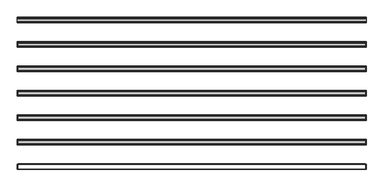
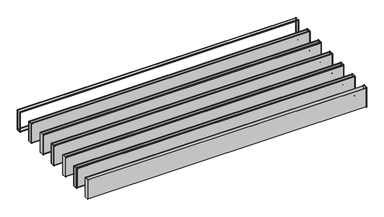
"""IFC4 building model written with IfcOpenShell, lengths in millimetres: proxy geometry, durlum_POLYLAM_KS : durlum_POLYLAM-KS/-S 63."""

from ifc_helpers import new_model, si_unit, frame, origin, place, context, project, spatial, polyline, circle_curve, outline, extrude, source, transform, mapped, element, save
from ifc_brep_helpers import plane_surface, cylinder_surface, advanced_brep


def generic_models_10a35686(model_context):
    return source(origin(), model_context, "Body", "SolidModel", [
        advanced_brep(
        [(1995.0, 309.5, 1990.9), (1995.0, 299.5, 1990.9), (1995.0, 299.5, 1990.0604454), (1995.0, 310.5, 1990.0604454), (1995.0, 310.5, 1691.9), (1995.0, 249.5, 1691.9), (1995.0, 249.5, 1989.8155735), (1995.0, 260.5, 1989.8155735), (1995.0, 260.5, 1990.9), (1995.0, 250.5, 1990.9), (1995.0, 248.5, 1988.9), (1995.0, 248.5, 1692.9), (1995.0, 250.5, 1690.9), (1995.0, 309.5, 1690.9), (1995.0, 311.5, 1692.9), (1995.0, 311.5, 1988.9), (-1995.0, 309.5, 1990.9), (-1995.0, 311.5, 1988.9), (-1995.0, 311.5, 1692.9), (-1995.0, 309.5, 1690.9), (-1995.0, 250.5, 1690.9), (-1995.0, 248.5, 1692.9), (-1995.0, 248.5, 1988.9), (-1995.0, 250.5, 1990.9), (-1995.0, 260.5, 1990.9), (-1995.0, 260.5, 1989.8155735), (-1995.0, 249.5, 1989.8155735), (-1995.0, 249.5, 1691.9), (-1995.0, 310.5, 1691.9), (-1995.0, 310.5, 1990.0604454), (-1995.0, 299.5, 1990.0604454), (-1995.0, 299.5, 1990.9), (-1986.5, 310.5, 1982.4), (1986.5, 310.5, 1982.4), (1986.5, 310.5, 1699.4), (-1986.5, 310.5, 1699.4), (1986.5, 249.5, 1982.4), (-1986.5, 249.5, 1982.4), (-1986.5, 249.5, 1699.4), (1986.5, 249.5, 1699.4), (-1986.5, 248.5, 1982.4), (1986.5, 248.5, 1982.4), (1986.5, 248.5, 1699.4), (-1986.5, 248.5, 1699.4), (1986.5, 311.5, 1982.4), (-1986.5, 311.5, 1982.4), (-1986.5, 311.5, 1699.4), (1986.5, 311.5, 1699.4)],
        [
            (0, 1),
            (1, 2),
            (2, 3),
            (3, 4),
            (4, 5),
            (5, 6),
            (6, 7),
            (7, 8),
            (8, 9),
            (9, 10, circle_curve(frame((1995.0, 250.5, 1988.9), z_axis=(1.0, 0.0, 0.0), x_axis=(0.0, 1.0, 0.0)), 2.0)),
            (10, 11),
            (11, 12, circle_curve(frame((1995.0, 250.5, 1692.9), z_axis=(1.0, 0.0, 0.0), x_axis=(0.0, 1.0, 0.0)), 2.0)),
            (12, 13),
            (13, 14, circle_curve(frame((1995.0, 309.5, 1692.9), z_axis=(1.0, 0.0, 0.0), x_axis=(0.0, 1.0, 0.0)), 2.0)),
            (14, 15),
            (15, 0, circle_curve(frame((1995.0, 309.5, 1988.9), z_axis=(1.0, 0.0, 0.0), x_axis=(0.0, 1.0, 0.0)), 2.0)),
            (16, 17, circle_curve(frame((-1995.0, 309.5, 1988.9), z_axis=(-1.0, 0.0, 0.0), x_axis=(0.0, 1.0, 0.0)), 2.0)),
            (17, 18),
            (18, 19, circle_curve(frame((-1995.0, 309.5, 1692.9), z_axis=(-1.0, 0.0, 0.0), x_axis=(0.0, 1.0, 0.0)), 2.0)),
            (19, 20),
            (20, 21, circle_curve(frame((-1995.0, 250.5, 1692.9), z_axis=(-1.0, 0.0, 0.0), x_axis=(0.0, 1.0, 0.0)), 2.0)),
            (21, 22),
            (22, 23, circle_curve(frame((-1995.0, 250.5, 1988.9), z_axis=(-1.0, 0.0, 0.0), x_axis=(0.0, 1.0, 0.0)), 2.0)),
            (23, 24),
            (24, 25),
            (25, 26),
            (26, 27),
            (27, 28),
            (28, 29),
            (29, 30),
            (30, 31),
            (31, 16),
            (0, 16),
            (31, 1),
            (30, 2),
            (29, 3),
            (28, 4),
            (32, 33),
            (33, 34),
            (34, 35),
            (35, 32),
            (27, 5),
            (26, 6),
            (36, 37),
            (37, 38),
            (38, 39),
            (39, 36),
            (25, 7),
            (24, 8),
            (23, 9),
            (10, 22),
            (21, 11),
            (40, 41),
            (41, 42),
            (42, 43),
            (43, 40),
            (12, 20),
            (19, 13),
            (14, 18),
            (17, 15),
            (44, 45),
            (45, 46),
            (46, 47),
            (47, 44),
            (44, 33),
            (32, 45),
            (36, 41),
            (40, 37),
            (35, 46),
            (43, 38),
            (34, 47),
            (42, 39),
        ],
        [
            plane_surface(frame((1995.0, 299.5, 1990.9), z_axis=(1.0, 0.0, 0.0), x_axis=(0.0, -1.0, 0.0))),
            plane_surface(frame((-1995.0, 299.5, 1990.9), z_axis=(-1.0, 0.0, 0.0), x_axis=(0.0, 1.0, 0.0))),
            plane_surface(frame((1995.0, 309.5, 1990.9), z_axis=(0.0, 0.0, 1.0), x_axis=(-1.0, 0.0, 0.0))),
            plane_surface(frame((1995.0, 299.5, 1990.9), z_axis=(0.0, -1.0, 0.0), x_axis=(-1.0, 0.0, 0.0))),
            plane_surface(frame((1995.0, 299.5, 1990.0604454), z_axis=(0.0, 0.0, -1.0), x_axis=(-1.0, 0.0, 0.0))),
            plane_surface(frame((1995.0, 310.5, 1990.0604454), z_axis=(0.0, -1.0, 0.0), x_axis=(-1.0, 0.0, 0.0))),
            plane_surface(frame((1995.0, 310.5, 1691.9), z_axis=(0.0, 0.0, 1.0), x_axis=(-1.0, 0.0, 0.0))),
            plane_surface(frame((1995.0, 249.5, 1691.9), z_axis=(0.0, 1.0, 0.0), x_axis=(-1.0, 0.0, 0.0))),
            plane_surface(frame((1995.0, 249.5, 1989.8155735), z_axis=(0.0, 0.0, -1.0), x_axis=(-1.0, 0.0, 0.0))),
            plane_surface(frame((1995.0, 260.5, 1989.8155735), z_axis=(0.0, 1.0, 0.0), x_axis=(-1.0, 0.0, 0.0))),
            plane_surface(frame((1995.0, 260.5, 1990.9), z_axis=(0.0, 0.0, 1.0), x_axis=(-1.0, 0.0, 0.0))),
            plane_surface(frame((1995.0, 248.5, 1988.9), z_axis=(0.0, -1.0, 0.0), x_axis=(-1.0, 0.0, 0.0))),
            plane_surface(frame((1995.0, 250.5, 1690.9), z_axis=(0.0, 0.0, -1.0), x_axis=(-1.0, 0.0, 0.0))),
            plane_surface(frame((1995.0, 311.5, 1692.9), z_axis=(0.0, 1.0, 0.0), x_axis=(-1.0, 0.0, 0.0))),
            cylinder_surface(frame((-1995.0, 250.5, 1988.9), z_axis=(1.0, 0.0, 0.0), x_axis=(0.0, 1.0, 0.0)), 2.0),
            cylinder_surface(frame((-1995.0, 250.5, 1692.9), z_axis=(1.0, 0.0, 0.0), x_axis=(0.0, 1.0, 0.0)), 2.0),
            cylinder_surface(frame((-1995.0, 309.5, 1692.9), z_axis=(1.0, 0.0, 0.0), x_axis=(0.0, 1.0, 0.0)), 2.0),
            cylinder_surface(frame((-1995.0, 309.5, 1988.9), z_axis=(1.0, 0.0, 0.0), x_axis=(0.0, 1.0, 0.0)), 2.0),
            plane_surface(frame((1986.5, 248.5, 1982.4), z_axis=(0.0, 0.0, -1.0), x_axis=(0.0, 1.0, 0.0))),
            plane_surface(frame((-1986.5, 248.5, 1982.4), z_axis=(1.0, 0.0, 0.0), x_axis=(0.0, 1.0, 0.0))),
            plane_surface(frame((-1986.5, 248.5, 1699.4), z_axis=(0.0, 0.0, 1.0), x_axis=(0.0, 1.0, 0.0))),
            plane_surface(frame((1986.5, 248.5, 1699.4), z_axis=(-1.0, 0.0, 0.0), x_axis=(0.0, 1.0, 0.0))),
        ],
        [
            (0, [[1, 2, 3, 4, 5, 6, 7, 8, 9, 10, 11, 12, 13, 14, 15, 16]]),
            (1, [[17, 18, 19, 20, 21, 22, 23, 24, 25, 26, 27, 28, 29, 30, 31, 32]]),
            (2, [[-1, 33, -32, 34]]),
            (3, [[-2, -34, -31, 35]]),
            (4, [[-3, -35, -30, 36]]),
            (5, [[-4, -36, -29, 37], [38, 39, 40, 41]]),
            (6, [[-5, -37, -28, 42]]),
            (7, [[-6, -42, -27, 43], [44, 45, 46, 47]]),
            (8, [[-7, -43, -26, 48]]),
            (9, [[-8, -48, -25, 49]]),
            (10, [[-9, -49, -24, 50]]),
            (11, [[-11, 51, -22, 52], [53, 54, 55, 56]]),
            (12, [[-13, 57, -20, 58]]),
            (13, [[-15, 59, -18, 60], [61, 62, 63, 64]]),
            (14, [[-10, -50, -23, -51]]),
            (15, [[-12, -52, -21, -57]]),
            (16, [[-14, -58, -19, -59]]),
            (17, [[-16, -60, -17, -33]]),
            (18, [[65, -38, 66, -61]]),
            (18, [[67, -53, 68, -44]]),
            (19, [[-66, -41, 69, -62]]),
            (19, [[-68, -56, 70, -45]]),
            (20, [[-69, -40, 71, -63]]),
            (20, [[-70, -55, 72, -46]]),
            (21, [[-65, -64, -71, -39]]),
            (21, [[-67, -47, -72, -54]]),
        ],
    ),
        extrude(outline(polyline([(1986.5, 30.5), (-1986.5, 30.5), (-1986.5, 31.5), (1986.5, 31.5), (1986.5, 30.5)])), frame((0.0, 0.0, 1699.4), z_axis=(0.0, 0.0, 1.0), x_axis=(1.0, 0.0, 0.0)), (0.0, 0.0, 1.0), 283.0),
        extrude(outline(polyline([(1986.5, -31.5), (-1986.5, -31.5), (-1986.5, -30.5), (1986.5, -30.5), (1986.5, -31.5)])), frame((0.0, 0.0, 1699.4), z_axis=(0.0, 0.0, 1.0), x_axis=(1.0, 0.0, 0.0)), (0.0, 0.0, 1.0), 283.0),
        extrude(outline(polyline([(1993.0, 30.5), (1995.0, 30.5), (1995.0, -30.5), (1993.0, -30.5), (1993.0, 30.5)])), frame((0.0, 0.0, 1691.9), z_axis=(0.0, 0.0, 1.0), x_axis=(1.0, 0.0, 0.0)), (0.0, 0.0, 1.0), 298.1604454),
        extrude(outline(polyline([(-1995.0, 30.5), (-1993.0, 30.5), (-1993.0, -30.5), (-1995.0, -30.5), (-1995.0, 30.5)])), frame((0.0, 0.0, 1691.9), z_axis=(0.0, 0.0, 1.0), x_axis=(1.0, 0.0, 0.0)), (0.0, 0.0, 1.0), 298.1604454),
        advanced_brep(
        [(1995.0, 29.5, 1990.9), (1995.0, 19.5, 1990.9), (1995.0, 19.5, 1990.0604454), (1995.0, 30.5, 1990.0604454), (1995.0, 30.5, 1691.9), (1995.0, -30.5, 1691.9), (1995.0, -30.5, 1989.8155735), (1995.0, -19.5, 1989.8155735), (1995.0, -19.5, 1990.9), (1995.0, -29.5, 1990.9), (1995.0, -31.5, 1988.9), (1995.0, -31.5, 1692.9), (1995.0, -29.5, 1690.9), (1995.0, 29.5, 1690.9), (1995.0, 31.5, 1692.9), (1995.0, 31.5, 1988.9), (-1995.0, 29.5, 1990.9), (-1995.0, 31.5, 1988.9), (-1995.0, 31.5, 1692.9), (-1995.0, 29.5, 1690.9), (-1995.0, -29.5, 1690.9), (-1995.0, -31.5, 1692.9), (-1995.0, -31.5, 1988.9), (-1995.0, -29.5, 1990.9), (-1995.0, -19.5, 1990.9), (-1995.0, -19.5, 1989.8155735), (-1995.0, -30.5, 1989.8155735), (-1995.0, -30.5, 1691.9), (-1995.0, 30.5, 1691.9), (-1995.0, 30.5, 1990.0604454), (-1995.0, 19.5, 1990.0604454), (-1995.0, 19.5, 1990.9), (-1986.5, 30.5, 1982.4), (1986.5, 30.5, 1982.4), (1986.5, 30.5, 1699.4), (-1986.5, 30.5, 1699.4), (1986.5, -30.5, 1982.4), (-1986.5, -30.5, 1982.4), (-1986.5, -30.5, 1699.4), (1986.5, -30.5, 1699.4), (-1986.5, -31.5, 1982.4), (1986.5, -31.5, 1982.4), (1986.5, -31.5, 1699.4), (-1986.5, -31.5, 1699.4), (1986.5, 31.5, 1982.4), (-1986.5, 31.5, 1982.4), (-1986.5, 31.5, 1699.4), (1986.5, 31.5, 1699.4)],
        [
            (0, 1),
            (1, 2),
            (2, 3),
            (3, 4),
            (4, 5),
            (5, 6),
            (6, 7),
            (7, 8),
            (8, 9),
            (9, 10, circle_curve(frame((1995.0, -29.5, 1988.9), z_axis=(1.0, 0.0, 0.0), x_axis=(0.0, 1.0, 0.0)), 2.0)),
            (10, 11),
            (11, 12, circle_curve(frame((1995.0, -29.5, 1692.9), z_axis=(1.0, 0.0, 0.0), x_axis=(0.0, 1.0, 0.0)), 2.0)),
            (12, 13),
            (13, 14, circle_curve(frame((1995.0, 29.5, 1692.9), z_axis=(1.0, 0.0, 0.0), x_axis=(0.0, 1.0, 0.0)), 2.0)),
            (14, 15),
            (15, 0, circle_curve(frame((1995.0, 29.5, 1988.9), z_axis=(1.0, 0.0, 0.0), x_axis=(0.0, 1.0, 0.0)), 2.0)),
            (16, 17, circle_curve(frame((-1995.0, 29.5, 1988.9), z_axis=(-1.0, 0.0, 0.0), x_axis=(0.0, 1.0, 0.0)), 2.0)),
            (17, 18),
            (18, 19, circle_curve(frame((-1995.0, 29.5, 1692.9), z_axis=(-1.0, 0.0, 0.0), x_axis=(0.0, 1.0, 0.0)), 2.0)),
            (19, 20),
            (20, 21, circle_curve(frame((-1995.0, -29.5, 1692.9), z_axis=(-1.0, 0.0, 0.0), x_axis=(0.0, 1.0, 0.0)), 2.0)),
            (21, 22),
            (22, 23, circle_curve(frame((-1995.0, -29.5, 1988.9), z_axis=(-1.0, 0.0, 0.0), x_axis=(0.0, 1.0, 0.0)), 2.0)),
            (23, 24),
            (24, 25),
            (25, 26),
            (26, 27),
            (27, 28),
            (28, 29),
            (29, 30),
            (30, 31),
            (31, 16),
            (0, 16),
            (31, 1),
            (30, 2),
            (29, 3),
            (28, 4),
            (32, 33),
            (33, 34),
            (34, 35),
            (35, 32),
            (27, 5),
            (26, 6),
            (36, 37),
            (37, 38),
            (38, 39),
            (39, 36),
            (25, 7),
            (24, 8),
            (23, 9),
            (10, 22),
            (21, 11),
            (40, 41),
            (41, 42),
            (42, 43),
            (43, 40),
            (12, 20),
            (19, 13),
            (14, 18),
            (17, 15),
            (44, 45),
            (45, 46),
            (46, 47),
            (47, 44),
            (44, 33),
            (32, 45),
            (36, 41),
            (40, 37),
            (35, 46),
            (43, 38),
            (34, 47),
            (42, 39),
        ],
        [
            plane_surface(frame((1995.0, 19.5, 1990.9), z_axis=(1.0, 0.0, 0.0), x_axis=(0.0, -1.0, 0.0))),
            plane_surface(frame((-1995.0, 19.5, 1990.9), z_axis=(-1.0, 0.0, 0.0), x_axis=(0.0, 1.0, 0.0))),
            plane_surface(frame((1995.0, 29.5, 1990.9), z_axis=(0.0, 0.0, 1.0), x_axis=(-1.0, 0.0, 0.0))),
            plane_surface(frame((1995.0, 19.5, 1990.9), z_axis=(0.0, -1.0, 0.0), x_axis=(-1.0, 0.0, 0.0))),
            plane_surface(frame((1995.0, 19.5, 1990.0604454), z_axis=(0.0, 0.0, -1.0), x_axis=(-1.0, 0.0, 0.0))),
            plane_surface(frame((1995.0, 30.5, 1990.0604454), z_axis=(0.0, -1.0, 0.0), x_axis=(-1.0, 0.0, 0.0))),
            plane_surface(frame((1995.0, 30.5, 1691.9), z_axis=(0.0, 0.0, 1.0), x_axis=(-1.0, 0.0, 0.0))),
            plane_surface(frame((1995.0, -30.5, 1691.9), z_axis=(0.0, 1.0, 0.0), x_axis=(-1.0, 0.0, 0.0))),
            plane_surface(frame((1995.0, -30.5, 1989.8155735), z_axis=(0.0, 0.0, -1.0), x_axis=(-1.0, 0.0, 0.0))),
            plane_surface(frame((1995.0, -19.5, 1989.8155735), z_axis=(0.0, 1.0, 0.0), x_axis=(-1.0, 0.0, 0.0))),
            plane_surface(frame((1995.0, -19.5, 1990.9), z_axis=(0.0, 0.0, 1.0), x_axis=(-1.0, 0.0, 0.0))),
            plane_surface(frame((1995.0, -31.5, 1988.9), z_axis=(0.0, -1.0, 0.0), x_axis=(-1.0, 0.0, 0.0))),
            plane_surface(frame((1995.0, -29.5, 1690.9), z_axis=(0.0, 0.0, -1.0), x_axis=(-1.0, 0.0, 0.0))),
            plane_surface(frame((1995.0, 31.5, 1692.9), z_axis=(0.0, 1.0, 0.0), x_axis=(-1.0, 0.0, 0.0))),
            cylinder_surface(frame((-1995.0, -29.5, 1988.9), z_axis=(1.0, 0.0, 0.0), x_axis=(0.0, 1.0, 0.0)), 2.0),
            cylinder_surface(frame((-1995.0, -29.5, 1692.9), z_axis=(1.0, 0.0, 0.0), x_axis=(0.0, 1.0, 0.0)), 2.0),
            cylinder_surface(frame((-1995.0, 29.5, 1692.9), z_axis=(1.0, 0.0, 0.0), x_axis=(0.0, 1.0, 0.0)), 2.0),
            cylinder_surface(frame((-1995.0, 29.5, 1988.9), z_axis=(1.0, 0.0, 0.0), x_axis=(0.0, 1.0, 0.0)), 2.0),
            plane_surface(frame((1986.5, -31.5, 1982.4), z_axis=(0.0, 0.0, -1.0), x_axis=(0.0, 1.0, 0.0))),
            plane_surface(frame((-1986.5, -31.5, 1982.4), z_axis=(1.0, 0.0, 0.0), x_axis=(0.0, 1.0, 0.0))),
            plane_surface(frame((-1986.5, -31.5, 1699.4), z_axis=(0.0, 0.0, 1.0), x_axis=(0.0, 1.0, 0.0))),
            plane_surface(frame((1986.5, -31.5, 1699.4), z_axis=(-1.0, 0.0, 0.0), x_axis=(0.0, 1.0, 0.0))),
        ],
        [
            (0, [[1, 2, 3, 4, 5, 6, 7, 8, 9, 10, 11, 12, 13, 14, 15, 16]]),
            (1, [[17, 18, 19, 20, 21, 22, 23, 24, 25, 26, 27, 28, 29, 30, 31, 32]]),
            (2, [[-1, 33, -32, 34]]),
            (3, [[-2, -34, -31, 35]]),
            (4, [[-3, -35, -30, 36]]),
            (5, [[-4, -36, -29, 37], [38, 39, 40, 41]]),
            (6, [[-5, -37, -28, 42]]),
            (7, [[-6, -42, -27, 43], [44, 45, 46, 47]]),
            (8, [[-7, -43, -26, 48]]),
            (9, [[-8, -48, -25, 49]]),
            (10, [[-9, -49, -24, 50]]),
            (11, [[-11, 51, -22, 52], [53, 54, 55, 56]]),
            (12, [[-13, 57, -20, 58]]),
            (13, [[-15, 59, -18, 60], [61, 62, 63, 64]]),
            (14, [[-10, -50, -23, -51]]),
            (15, [[-12, -52, -21, -57]]),
            (16, [[-14, -58, -19, -59]]),
            (17, [[-16, -60, -17, -33]]),
            (18, [[65, -38, 66, -61]]),
            (18, [[67, -53, 68, -44]]),
            (19, [[-66, -41, 69, -62]]),
            (19, [[-68, -56, 70, -45]]),
            (20, [[-69, -40, 71, -63]]),
            (20, [[-70, -55, 72, -46]]),
            (21, [[-65, -64, -71, -39]]),
            (21, [[-67, -47, -72, -54]]),
        ],
    ),
        extrude(outline(polyline([(1986.5, -249.5), (-1986.5, -249.5), (-1986.5, -248.5), (1986.5, -248.5), (1986.5, -249.5)])), frame((0.0, 0.0, 1699.4), z_axis=(0.0, 0.0, 1.0), x_axis=(1.0, 0.0, 0.0)), (0.0, 0.0, 1.0), 283.0),
        extrude(outline(polyline([(1986.5, -311.5), (-1986.5, -311.5), (-1986.5, -310.5), (1986.5, -310.5), (1986.5, -311.5)])), frame((0.0, 0.0, 1699.4), z_axis=(0.0, 0.0, 1.0), x_axis=(1.0, 0.0, 0.0)), (0.0, 0.0, 1.0), 283.0),
        extrude(outline(polyline([(1993.0, -249.5), (1995.0, -249.5), (1995.0, -310.5), (1993.0, -310.5), (1993.0, -249.5)])), frame((0.0, 0.0, 1691.9), z_axis=(0.0, 0.0, 1.0), x_axis=(1.0, 0.0, 0.0)), (0.0, 0.0, 1.0), 298.1604454),
        extrude(outline(polyline([(-1995.0, -249.5), (-1993.0, -249.5), (-1993.0, -310.5), (-1995.0, -310.5), (-1995.0, -249.5)])), frame((0.0, 0.0, 1691.9), z_axis=(0.0, 0.0, 1.0), x_axis=(1.0, 0.0, 0.0)), (0.0, 0.0, 1.0), 298.1604454),
        advanced_brep(
        [(1995.0, -250.5, 1990.9), (1995.0, -260.5, 1990.9), (1995.0, -260.5, 1990.0604454), (1995.0, -249.5, 1990.0604454), (1995.0, -249.5, 1691.9), (1995.0, -310.5, 1691.9), (1995.0, -310.5, 1989.8155735), (1995.0, -299.5, 1989.8155735), (1995.0, -299.5, 1990.9), (1995.0, -309.5, 1990.9), (1995.0, -311.5, 1988.9), (1995.0, -311.5, 1692.9), (1995.0, -309.5, 1690.9), (1995.0, -250.5, 1690.9), (1995.0, -248.5, 1692.9), (1995.0, -248.5, 1988.9), (-1995.0, -250.5, 1990.9), (-1995.0, -248.5, 1988.9), (-1995.0, -248.5, 1692.9), (-1995.0, -250.5, 1690.9), (-1995.0, -309.5, 1690.9), (-1995.0, -311.5, 1692.9), (-1995.0, -311.5, 1988.9), (-1995.0, -309.5, 1990.9), (-1995.0, -299.5, 1990.9), (-1995.0, -299.5, 1989.8155735), (-1995.0, -310.5, 1989.8155735), (-1995.0, -310.5, 1691.9), (-1995.0, -249.5, 1691.9), (-1995.0, -249.5, 1990.0604454), (-1995.0, -260.5, 1990.0604454), (-1995.0, -260.5, 1990.9), (-1986.5, -249.5, 1982.4), (1986.5, -249.5, 1982.4), (1986.5, -249.5, 1699.4), (-1986.5, -249.5, 1699.4), (1986.5, -310.5, 1982.4), (-1986.5, -310.5, 1982.4), (-1986.5, -310.5, 1699.4), (1986.5, -310.5, 1699.4), (-1986.5, -311.5, 1982.4), (1986.5, -311.5, 1982.4), (1986.5, -311.5, 1699.4), (-1986.5, -311.5, 1699.4), (1986.5, -248.5, 1982.4), (-1986.5, -248.5, 1982.4), (-1986.5, -248.5, 1699.4), (1986.5, -248.5, 1699.4)],
        [
            (0, 1),
            (1, 2),
            (2, 3),
            (3, 4),
            (4, 5),
            (5, 6),
            (6, 7),
            (7, 8),
            (8, 9),
            (9, 10, circle_curve(frame((1995.0, -309.5, 1988.9), z_axis=(1.0, 0.0, 0.0), x_axis=(0.0, 1.0, 0.0)), 2.0)),
            (10, 11),
            (11, 12, circle_curve(frame((1995.0, -309.5, 1692.9), z_axis=(1.0, 0.0, 0.0), x_axis=(0.0, 1.0, 0.0)), 2.0)),
            (12, 13),
            (13, 14, circle_curve(frame((1995.0, -250.5, 1692.9), z_axis=(1.0, 0.0, 0.0), x_axis=(0.0, 1.0, 0.0)), 2.0)),
            (14, 15),
            (15, 0, circle_curve(frame((1995.0, -250.5, 1988.9), z_axis=(1.0, 0.0, 0.0), x_axis=(0.0, 1.0, 0.0)), 2.0)),
            (16, 17, circle_curve(frame((-1995.0, -250.5, 1988.9), z_axis=(-1.0, 0.0, 0.0), x_axis=(0.0, 1.0, 0.0)), 2.0)),
            (17, 18),
            (18, 19, circle_curve(frame((-1995.0, -250.5, 1692.9), z_axis=(-1.0, 0.0, 0.0), x_axis=(0.0, 1.0, 0.0)), 2.0)),
            (19, 20),
            (20, 21, circle_curve(frame((-1995.0, -309.5, 1692.9), z_axis=(-1.0, 0.0, 0.0), x_axis=(0.0, 1.0, 0.0)), 2.0)),
            (21, 22),
            (22, 23, circle_curve(frame((-1995.0, -309.5, 1988.9), z_axis=(-1.0, 0.0, 0.0), x_axis=(0.0, 1.0, 0.0)), 2.0)),
            (23, 24),
            (24, 25),
            (25, 26),
            (26, 27),
            (27, 28),
            (28, 29),
            (29, 30),
            (30, 31),
            (31, 16),
            (0, 16),
            (31, 1),
            (30, 2),
            (29, 3),
            (28, 4),
            (32, 33),
            (33, 34),
            (34, 35),
            (35, 32),
            (27, 5),
            (26, 6),
            (36, 37),
            (37, 38),
            (38, 39),
            (39, 36),
            (25, 7),
            (24, 8),
            (23, 9),
            (10, 22),
            (21, 11),
            (40, 41),
            (41, 42),
            (42, 43),
            (43, 40),
            (12, 20),
            (19, 13),
            (14, 18),
            (17, 15),
            (44, 45),
            (45, 46),
            (46, 47),
            (47, 44),
            (44, 33),
            (32, 45),
            (36, 41),
            (40, 37),
            (35, 46),
            (43, 38),
            (34, 47),
            (42, 39),
        ],
        [
            plane_surface(frame((1995.0, -260.5, 1990.9), z_axis=(1.0, 0.0, 0.0), x_axis=(0.0, -1.0, 0.0))),
            plane_surface(frame((-1995.0, -260.5, 1990.9), z_axis=(-1.0, 0.0, 0.0), x_axis=(0.0, 1.0, 0.0))),
            plane_surface(frame((1995.0, -250.5, 1990.9), z_axis=(0.0, 0.0, 1.0), x_axis=(-1.0, 0.0, 0.0))),
            plane_surface(frame((1995.0, -260.5, 1990.9), z_axis=(0.0, -1.0, 0.0), x_axis=(-1.0, 0.0, 0.0))),
            plane_surface(frame((1995.0, -260.5, 1990.0604454), z_axis=(0.0, 0.0, -1.0), x_axis=(-1.0, 0.0, 0.0))),
            plane_surface(frame((1995.0, -249.5, 1990.0604454), z_axis=(0.0, -1.0, 0.0), x_axis=(-1.0, 0.0, 0.0))),
            plane_surface(frame((1995.0, -249.5, 1691.9), z_axis=(0.0, 0.0, 1.0), x_axis=(-1.0, 0.0, 0.0))),
            plane_surface(frame((1995.0, -310.5, 1691.9), z_axis=(0.0, 1.0, 0.0), x_axis=(-1.0, 0.0, 0.0))),
            plane_surface(frame((1995.0, -310.5, 1989.8155735), z_axis=(0.0, 0.0, -1.0), x_axis=(-1.0, 0.0, 0.0))),
            plane_surface(frame((1995.0, -299.5, 1989.8155735), z_axis=(0.0, 1.0, 0.0), x_axis=(-1.0, 0.0, 0.0))),
            plane_surface(frame((1995.0, -299.5, 1990.9), z_axis=(0.0, 0.0, 1.0), x_axis=(-1.0, 0.0, 0.0))),
            plane_surface(frame((1995.0, -311.5, 1988.9), z_axis=(0.0, -1.0, 0.0), x_axis=(-1.0, 0.0, 0.0))),
            plane_surface(frame((1995.0, -309.5, 1690.9), z_axis=(0.0, 0.0, -1.0), x_axis=(-1.0, 0.0, 0.0))),
            plane_surface(frame((1995.0, -248.5, 1692.9), z_axis=(0.0, 1.0, 0.0), x_axis=(-1.0, 0.0, 0.0))),
            cylinder_surface(frame((-1995.0, -309.5, 1988.9), z_axis=(1.0, 0.0, 0.0), x_axis=(0.0, 1.0, 0.0)), 2.0),
            cylinder_surface(frame((-1995.0, -309.5, 1692.9), z_axis=(1.0, 0.0, 0.0), x_axis=(0.0, 1.0, 0.0)), 2.0),
            cylinder_surface(frame((-1995.0, -250.5, 1692.9), z_axis=(1.0, 0.0, 0.0), x_axis=(0.0, 1.0, 0.0)), 2.0),
            cylinder_surface(frame((-1995.0, -250.5, 1988.9), z_axis=(1.0, 0.0, 0.0), x_axis=(0.0, 1.0, 0.0)), 2.0),
            plane_surface(frame((1986.5, -311.5, 1982.4), z_axis=(0.0, 0.0, -1.0), x_axis=(0.0, 1.0, 0.0))),
            plane_surface(frame((-1986.5, -311.5, 1982.4), z_axis=(1.0, 0.0, 0.0), x_axis=(0.0, 1.0, 0.0))),
            plane_surface(frame((-1986.5, -311.5, 1699.4), z_axis=(0.0, 0.0, 1.0), x_axis=(0.0, 1.0, 0.0))),
            plane_surface(frame((1986.5, -311.5, 1699.4), z_axis=(-1.0, 0.0, 0.0), x_axis=(0.0, 1.0, 0.0))),
        ],
        [
            (0, [[1, 2, 3, 4, 5, 6, 7, 8, 9, 10, 11, 12, 13, 14, 15, 16]]),
            (1, [[17, 18, 19, 20, 21, 22, 23, 24, 25, 26, 27, 28, 29, 30, 31, 32]]),
            (2, [[-1, 33, -32, 34]]),
            (3, [[-2, -34, -31, 35]]),
            (4, [[-3, -35, -30, 36]]),
            (5, [[-4, -36, -29, 37], [38, 39, 40, 41]]),
            (6, [[-5, -37, -28, 42]]),
            (7, [[-6, -42, -27, 43], [44, 45, 46, 47]]),
            (8, [[-7, -43, -26, 48]]),
            (9, [[-8, -48, -25, 49]]),
            (10, [[-9, -49, -24, 50]]),
            (11, [[-11, 51, -22, 52], [53, 54, 55, 56]]),
            (12, [[-13, 57, -20, 58]]),
            (13, [[-15, 59, -18, 60], [61, 62, 63, 64]]),
            (14, [[-10, -50, -23, -51]]),
            (15, [[-12, -52, -21, -57]]),
            (16, [[-14, -58, -19, -59]]),
            (17, [[-16, -60, -17, -33]]),
            (18, [[65, -38, 66, -61]]),
            (18, [[67, -53, 68, -44]]),
            (19, [[-66, -41, 69, -62]]),
            (19, [[-68, -56, 70, -45]]),
            (20, [[-69, -40, 71, -63]]),
            (20, [[-70, -55, 72, -46]]),
            (21, [[-65, -64, -71, -39]]),
            (21, [[-67, -47, -72, -54]]),
        ],
    ),
        extrude(outline(polyline([(1986.5, -529.5), (-1986.5, -529.5), (-1986.5, -528.5), (1986.5, -528.5), (1986.5, -529.5)])), frame((0.0, 0.0, 1699.4), z_axis=(0.0, 0.0, 1.0), x_axis=(1.0, 0.0, 0.0)), (0.0, 0.0, 1.0), 283.0),
        extrude(outline(polyline([(1986.5, -591.5), (-1986.5, -591.5), (-1986.5, -590.5), (1986.5, -590.5), (1986.5, -591.5)])), frame((0.0, 0.0, 1699.4), z_axis=(0.0, 0.0, 1.0), x_axis=(1.0, 0.0, 0.0)), (0.0, 0.0, 1.0), 283.0),
        extrude(outline(polyline([(1993.0, -529.5), (1995.0, -529.5), (1995.0, -590.5), (1993.0, -590.5), (1993.0, -529.5)])), frame((0.0, 0.0, 1691.9), z_axis=(0.0, 0.0, 1.0), x_axis=(1.0, 0.0, 0.0)), (0.0, 0.0, 1.0), 298.1604454),
        extrude(outline(polyline([(-1995.0, -529.5), (-1993.0, -529.5), (-1993.0, -590.5), (-1995.0, -590.5), (-1995.0, -529.5)])), frame((0.0, 0.0, 1691.9), z_axis=(0.0, 0.0, 1.0), x_axis=(1.0, 0.0, 0.0)), (0.0, 0.0, 1.0), 298.1604454),
        advanced_brep(
        [(1995.0, -530.5, 1990.9), (1995.0, -540.5, 1990.9), (1995.0, -540.5, 1990.0604454), (1995.0, -529.5, 1990.0604454), (1995.0, -529.5, 1691.9), (1995.0, -590.5, 1691.9), (1995.0, -590.5, 1989.8155735), (1995.0, -579.5, 1989.8155735), (1995.0, -579.5, 1990.9), (1995.0, -589.5, 1990.9), (1995.0, -591.5, 1988.9), (1995.0, -591.5, 1692.9), (1995.0, -589.5, 1690.9), (1995.0, -530.5, 1690.9), (1995.0, -528.5, 1692.9), (1995.0, -528.5, 1988.9), (-1995.0, -530.5, 1990.9), (-1995.0, -528.5, 1988.9), (-1995.0, -528.5, 1692.9), (-1995.0, -530.5, 1690.9), (-1995.0, -589.5, 1690.9), (-1995.0, -591.5, 1692.9), (-1995.0, -591.5, 1988.9), (-1995.0, -589.5, 1990.9), (-1995.0, -579.5, 1990.9), (-1995.0, -579.5, 1989.8155735), (-1995.0, -590.5, 1989.8155735), (-1995.0, -590.5, 1691.9), (-1995.0, -529.5, 1691.9), (-1995.0, -529.5, 1990.0604454), (-1995.0, -540.5, 1990.0604454), (-1995.0, -540.5, 1990.9), (-1986.5, -529.5, 1982.4), (1986.5, -529.5, 1982.4), (1986.5, -529.5, 1699.4), (-1986.5, -529.5, 1699.4), (1986.5, -590.5, 1982.4), (-1986.5, -590.5, 1982.4), (-1986.5, -590.5, 1699.4), (1986.5, -590.5, 1699.4), (-1986.5, -591.5, 1982.4), (1986.5, -591.5, 1982.4), (1986.5, -591.5, 1699.4), (-1986.5, -591.5, 1699.4), (1986.5, -528.5, 1982.4), (-1986.5, -528.5, 1982.4), (-1986.5, -528.5, 1699.4), (1986.5, -528.5, 1699.4)],
        [
            (0, 1),
            (1, 2),
            (2, 3),
            (3, 4),
            (4, 5),
            (5, 6),
            (6, 7),
            (7, 8),
            (8, 9),
            (9, 10, circle_curve(frame((1995.0, -589.5, 1988.9), z_axis=(1.0, 0.0, 0.0), x_axis=(0.0, 1.0, 0.0)), 2.0)),
            (10, 11),
            (11, 12, circle_curve(frame((1995.0, -589.5, 1692.9), z_axis=(1.0, 0.0, 0.0), x_axis=(0.0, 1.0, 0.0)), 2.0)),
            (12, 13),
            (13, 14, circle_curve(frame((1995.0, -530.5, 1692.9), z_axis=(1.0, 0.0, 0.0), x_axis=(0.0, 1.0, 0.0)), 2.0)),
            (14, 15),
            (15, 0, circle_curve(frame((1995.0, -530.5, 1988.9), z_axis=(1.0, 0.0, 0.0), x_axis=(0.0, 1.0, 0.0)), 2.0)),
            (16, 17, circle_curve(frame((-1995.0, -530.5, 1988.9), z_axis=(-1.0, 0.0, 0.0), x_axis=(0.0, 1.0, 0.0)), 2.0)),
            (17, 18),
            (18, 19, circle_curve(frame((-1995.0, -530.5, 1692.9), z_axis=(-1.0, 0.0, 0.0), x_axis=(0.0, 1.0, 0.0)), 2.0)),
            (19, 20),
            (20, 21, circle_curve(frame((-1995.0, -589.5, 1692.9), z_axis=(-1.0, 0.0, 0.0), x_axis=(0.0, 1.0, 0.0)), 2.0)),
            (21, 22),
            (22, 23, circle_curve(frame((-1995.0, -589.5, 1988.9), z_axis=(-1.0, 0.0, 0.0), x_axis=(0.0, 1.0, 0.0)), 2.0)),
            (23, 24),
            (24, 25),
            (25, 26),
            (26, 27),
            (27, 28),
            (28, 29),
            (29, 30),
            (30, 31),
            (31, 16),
            (0, 16),
            (31, 1),
            (30, 2),
            (29, 3),
            (28, 4),
            (32, 33),
            (33, 34),
            (34, 35),
            (35, 32),
            (27, 5),
            (26, 6),
            (36, 37),
            (37, 38),
            (38, 39),
            (39, 36),
            (25, 7),
            (24, 8),
            (23, 9),
            (10, 22),
            (21, 11),
            (40, 41),
            (41, 42),
            (42, 43),
            (43, 40),
            (12, 20),
            (19, 13),
            (14, 18),
            (17, 15),
            (44, 45),
            (45, 46),
            (46, 47),
            (47, 44),
            (44, 33),
            (32, 45),
            (36, 41),
            (40, 37),
            (35, 46),
            (43, 38),
            (34, 47),
            (42, 39),
        ],
        [
            plane_surface(frame((1995.0, -540.5, 1990.9), z_axis=(1.0, 0.0, 0.0), x_axis=(0.0, -1.0, 0.0))),
            plane_surface(frame((-1995.0, -540.5, 1990.9), z_axis=(-1.0, 0.0, 0.0), x_axis=(0.0, 1.0, 0.0))),
            plane_surface(frame((1995.0, -530.5, 1990.9), z_axis=(0.0, 0.0, 1.0), x_axis=(-1.0, 0.0, 0.0))),
            plane_surface(frame((1995.0, -540.5, 1990.9), z_axis=(0.0, -1.0, 0.0), x_axis=(-1.0, 0.0, 0.0))),
            plane_surface(frame((1995.0, -540.5, 1990.0604454), z_axis=(0.0, 0.0, -1.0), x_axis=(-1.0, 0.0, 0.0))),
            plane_surface(frame((1995.0, -529.5, 1990.0604454), z_axis=(0.0, -1.0, 0.0), x_axis=(-1.0, 0.0, 0.0))),
            plane_surface(frame((1995.0, -529.5, 1691.9), z_axis=(0.0, 0.0, 1.0), x_axis=(-1.0, 0.0, 0.0))),
            plane_surface(frame((1995.0, -590.5, 1691.9), z_axis=(0.0, 1.0, 0.0), x_axis=(-1.0, 0.0, 0.0))),
            plane_surface(frame((1995.0, -590.5, 1989.8155735), z_axis=(0.0, 0.0, -1.0), x_axis=(-1.0, 0.0, 0.0))),
            plane_surface(frame((1995.0, -579.5, 1989.8155735), z_axis=(0.0, 1.0, 0.0), x_axis=(-1.0, 0.0, 0.0))),
            plane_surface(frame((1995.0, -579.5, 1990.9), z_axis=(0.0, 0.0, 1.0), x_axis=(-1.0, 0.0, 0.0))),
            plane_surface(frame((1995.0, -591.5, 1988.9), z_axis=(0.0, -1.0, 0.0), x_axis=(-1.0, 0.0, 0.0))),
            plane_surface(frame((1995.0, -589.5, 1690.9), z_axis=(0.0, 0.0, -1.0), x_axis=(-1.0, 0.0, 0.0))),
            plane_surface(frame((1995.0, -528.5, 1692.9), z_axis=(0.0, 1.0, 0.0), x_axis=(-1.0, 0.0, 0.0))),
            cylinder_surface(frame((-1995.0, -589.5, 1988.9), z_axis=(1.0, 0.0, 0.0), x_axis=(0.0, 1.0, 0.0)), 2.0),
            cylinder_surface(frame((-1995.0, -589.5, 1692.9), z_axis=(1.0, 0.0, 0.0), x_axis=(0.0, 1.0, 0.0)), 2.0),
            cylinder_surface(frame((-1995.0, -530.5, 1692.9), z_axis=(1.0, 0.0, 0.0), x_axis=(0.0, 1.0, 0.0)), 2.0),
            cylinder_surface(frame((-1995.0, -530.5, 1988.9), z_axis=(1.0, 0.0, 0.0), x_axis=(0.0, 1.0, 0.0)), 2.0),
            plane_surface(frame((1986.5, -591.5, 1982.4), z_axis=(0.0, 0.0, -1.0), x_axis=(0.0, 1.0, 0.0))),
            plane_surface(frame((-1986.5, -591.5, 1982.4), z_axis=(1.0, 0.0, 0.0), x_axis=(0.0, 1.0, 0.0))),
            plane_surface(frame((-1986.5, -591.5, 1699.4), z_axis=(0.0, 0.0, 1.0), x_axis=(0.0, 1.0, 0.0))),
            plane_surface(frame((1986.5, -591.5, 1699.4), z_axis=(-1.0, 0.0, 0.0), x_axis=(0.0, 1.0, 0.0))),
        ],
        [
            (0, [[1, 2, 3, 4, 5, 6, 7, 8, 9, 10, 11, 12, 13, 14, 15, 16]]),
            (1, [[17, 18, 19, 20, 21, 22, 23, 24, 25, 26, 27, 28, 29, 30, 31, 32]]),
            (2, [[-1, 33, -32, 34]]),
            (3, [[-2, -34, -31, 35]]),
            (4, [[-3, -35, -30, 36]]),
            (5, [[-4, -36, -29, 37], [38, 39, 40, 41]]),
            (6, [[-5, -37, -28, 42]]),
            (7, [[-6, -42, -27, 43], [44, 45, 46, 47]]),
            (8, [[-7, -43, -26, 48]]),
            (9, [[-8, -48, -25, 49]]),
            (10, [[-9, -49, -24, 50]]),
            (11, [[-11, 51, -22, 52], [53, 54, 55, 56]]),
            (12, [[-13, 57, -20, 58]]),
            (13, [[-15, 59, -18, 60], [61, 62, 63, 64]]),
            (14, [[-10, -50, -23, -51]]),
            (15, [[-12, -52, -21, -57]]),
            (16, [[-14, -58, -19, -59]]),
            (17, [[-16, -60, -17, -33]]),
            (18, [[65, -38, 66, -61]]),
            (18, [[67, -53, 68, -44]]),
            (19, [[-66, -41, 69, -62]]),
            (19, [[-68, -56, 70, -45]]),
            (20, [[-69, -40, 71, -63]]),
            (20, [[-70, -55, 72, -46]]),
            (21, [[-65, -64, -71, -39]]),
            (21, [[-67, -47, -72, -54]]),
        ],
    ),
        extrude(outline(polyline([(1986.5, -809.5), (-1986.5, -809.5), (-1986.5, -808.5), (1986.5, -808.5), (1986.5, -809.5)])), frame((0.0, 0.0, 1699.4), z_axis=(0.0, 0.0, 1.0), x_axis=(1.0, 0.0, 0.0)), (0.0, 0.0, 1.0), 283.0),
        extrude(outline(polyline([(1986.5, -871.5), (-1986.5, -871.5), (-1986.5, -870.5), (1986.5, -870.5), (1986.5, -871.5)])), frame((0.0, 0.0, 1699.4), z_axis=(0.0, 0.0, 1.0), x_axis=(1.0, 0.0, 0.0)), (0.0, 0.0, 1.0), 283.0),
        extrude(outline(polyline([(1993.0, -809.5), (1995.0, -809.5), (1995.0, -870.5), (1993.0, -870.5), (1993.0, -809.5)])), frame((0.0, 0.0, 1691.9), z_axis=(0.0, 0.0, 1.0), x_axis=(1.0, 0.0, 0.0)), (0.0, 0.0, 1.0), 298.1604454),
        extrude(outline(polyline([(-1995.0, -809.5), (-1993.0, -809.5), (-1993.0, -870.5), (-1995.0, -870.5), (-1995.0, -809.5)])), frame((0.0, 0.0, 1691.9), z_axis=(0.0, 0.0, 1.0), x_axis=(1.0, 0.0, 0.0)), (0.0, 0.0, 1.0), 298.1604454),
        advanced_brep(
        [(1995.0, -810.5, 1990.9), (1995.0, -820.5, 1990.9), (1995.0, -820.5, 1990.0604454), (1995.0, -809.5, 1990.0604454), (1995.0, -809.5, 1691.9), (1995.0, -870.5, 1691.9), (1995.0, -870.5, 1989.8155735), (1995.0, -859.5, 1989.8155735), (1995.0, -859.5, 1990.9), (1995.0, -869.5, 1990.9), (1995.0, -871.5, 1988.9), (1995.0, -871.5, 1692.9), (1995.0, -869.5, 1690.9), (1995.0, -810.5, 1690.9), (1995.0, -808.5, 1692.9), (1995.0, -808.5, 1988.9), (-1995.0, -810.5, 1990.9), (-1995.0, -808.5, 1988.9), (-1995.0, -808.5, 1692.9), (-1995.0, -810.5, 1690.9), (-1995.0, -869.5, 1690.9), (-1995.0, -871.5, 1692.9), (-1995.0, -871.5, 1988.9), (-1995.0, -869.5, 1990.9), (-1995.0, -859.5, 1990.9), (-1995.0, -859.5, 1989.8155735), (-1995.0, -870.5, 1989.8155735), (-1995.0, -870.5, 1691.9), (-1995.0, -809.5, 1691.9), (-1995.0, -809.5, 1990.0604454), (-1995.0, -820.5, 1990.0604454), (-1995.0, -820.5, 1990.9), (-1986.5, -809.5, 1982.4), (1986.5, -809.5, 1982.4), (1986.5, -809.5, 1699.4), (-1986.5, -809.5, 1699.4), (1986.5, -870.5, 1982.4), (-1986.5, -870.5, 1982.4), (-1986.5, -870.5, 1699.4), (1986.5, -870.5, 1699.4), (-1986.5, -871.5, 1982.4), (1986.5, -871.5, 1982.4), (1986.5, -871.5, 1699.4), (-1986.5, -871.5, 1699.4), (1986.5, -808.5, 1982.4), (-1986.5, -808.5, 1982.4), (-1986.5, -808.5, 1699.4), (1986.5, -808.5, 1699.4)],
        [
            (0, 1),
            (1, 2),
            (2, 3),
            (3, 4),
            (4, 5),
            (5, 6),
            (6, 7),
            (7, 8),
            (8, 9),
            (9, 10, circle_curve(frame((1995.0, -869.5, 1988.9), z_axis=(1.0, 0.0, 0.0), x_axis=(0.0, 1.0, 0.0)), 2.0)),
            (10, 11),
            (11, 12, circle_curve(frame((1995.0, -869.5, 1692.9), z_axis=(1.0, 0.0, 0.0), x_axis=(0.0, 1.0, 0.0)), 2.0)),
            (12, 13),
            (13, 14, circle_curve(frame((1995.0, -810.5, 1692.9), z_axis=(1.0, 0.0, 0.0), x_axis=(0.0, 1.0, 0.0)), 2.0)),
            (14, 15),
            (15, 0, circle_curve(frame((1995.0, -810.5, 1988.9), z_axis=(1.0, 0.0, 0.0), x_axis=(0.0, 1.0, 0.0)), 2.0)),
            (16, 17, circle_curve(frame((-1995.0, -810.5, 1988.9), z_axis=(-1.0, 0.0, 0.0), x_axis=(0.0, 1.0, 0.0)), 2.0)),
            (17, 18),
            (18, 19, circle_curve(frame((-1995.0, -810.5, 1692.9), z_axis=(-1.0, 0.0, 0.0), x_axis=(0.0, 1.0, 0.0)), 2.0)),
            (19, 20),
            (20, 21, circle_curve(frame((-1995.0, -869.5, 1692.9), z_axis=(-1.0, 0.0, 0.0), x_axis=(0.0, 1.0, 0.0)), 2.0)),
            (21, 22),
            (22, 23, circle_curve(frame((-1995.0, -869.5, 1988.9), z_axis=(-1.0, 0.0, 0.0), x_axis=(0.0, 1.0, 0.0)), 2.0)),
            (23, 24),
            (24, 25),
            (25, 26),
            (26, 27),
            (27, 28),
            (28, 29),
            (29, 30),
            (30, 31),
            (31, 16),
            (0, 16),
            (31, 1),
            (30, 2),
            (29, 3),
            (28, 4),
            (32, 33),
            (33, 34),
            (34, 35),
            (35, 32),
            (27, 5),
            (26, 6),
            (36, 37),
            (37, 38),
            (38, 39),
            (39, 36),
            (25, 7),
            (24, 8),
            (23, 9),
            (10, 22),
            (21, 11),
            (40, 41),
            (41, 42),
            (42, 43),
            (43, 40),
            (12, 20),
            (19, 13),
            (14, 18),
            (17, 15),
            (44, 45),
            (45, 46),
            (46, 47),
            (47, 44),
            (44, 33),
            (32, 45),
            (36, 41),
            (40, 37),
            (35, 46),
            (43, 38),
            (34, 47),
            (42, 39),
        ],
        [
            plane_surface(frame((1995.0, -820.5, 1990.9), z_axis=(1.0, 0.0, 0.0), x_axis=(0.0, -1.0, 0.0))),
            plane_surface(frame((-1995.0, -820.5, 1990.9), z_axis=(-1.0, 0.0, 0.0), x_axis=(0.0, 1.0, 0.0))),
            plane_surface(frame((1995.0, -810.5, 1990.9), z_axis=(0.0, 0.0, 1.0), x_axis=(-1.0, 0.0, 0.0))),
            plane_surface(frame((1995.0, -820.5, 1990.9), z_axis=(0.0, -1.0, 0.0), x_axis=(-1.0, 0.0, 0.0))),
            plane_surface(frame((1995.0, -820.5, 1990.0604454), z_axis=(0.0, 0.0, -1.0), x_axis=(-1.0, 0.0, 0.0))),
            plane_surface(frame((1995.0, -809.5, 1990.0604454), z_axis=(0.0, -1.0, 0.0), x_axis=(-1.0, 0.0, 0.0))),
            plane_surface(frame((1995.0, -809.5, 1691.9), z_axis=(0.0, 0.0, 1.0), x_axis=(-1.0, 0.0, 0.0))),
            plane_surface(frame((1995.0, -870.5, 1691.9), z_axis=(0.0, 1.0, 0.0), x_axis=(-1.0, 0.0, 0.0))),
            plane_surface(frame((1995.0, -870.5, 1989.8155735), z_axis=(0.0, 0.0, -1.0), x_axis=(-1.0, 0.0, 0.0))),
            plane_surface(frame((1995.0, -859.5, 1989.8155735), z_axis=(0.0, 1.0, 0.0), x_axis=(-1.0, 0.0, 0.0))),
            plane_surface(frame((1995.0, -859.5, 1990.9), z_axis=(0.0, 0.0, 1.0), x_axis=(-1.0, 0.0, 0.0))),
            plane_surface(frame((1995.0, -871.5, 1988.9), z_axis=(0.0, -1.0, 0.0), x_axis=(-1.0, 0.0, 0.0))),
            plane_surface(frame((1995.0, -869.5, 1690.9), z_axis=(0.0, 0.0, -1.0), x_axis=(-1.0, 0.0, 0.0))),
            plane_surface(frame((1995.0, -808.5, 1692.9), z_axis=(0.0, 1.0, 0.0), x_axis=(-1.0, 0.0, 0.0))),
            cylinder_surface(frame((-1995.0, -869.5, 1988.9), z_axis=(1.0, 0.0, 0.0), x_axis=(0.0, 1.0, 0.0)), 2.0),
            cylinder_surface(frame((-1995.0, -869.5, 1692.9), z_axis=(1.0, 0.0, 0.0), x_axis=(0.0, 1.0, 0.0)), 2.0),
            cylinder_surface(frame((-1995.0, -810.5, 1692.9), z_axis=(1.0, 0.0, 0.0), x_axis=(0.0, 1.0, 0.0)), 2.0),
            cylinder_surface(frame((-1995.0, -810.5, 1988.9), z_axis=(1.0, 0.0, 0.0), x_axis=(0.0, 1.0, 0.0)), 2.0),
            plane_surface(frame((1986.5, -871.5, 1982.4), z_axis=(0.0, 0.0, -1.0), x_axis=(0.0, 1.0, 0.0))),
            plane_surface(frame((-1986.5, -871.5, 1982.4), z_axis=(1.0, 0.0, 0.0), x_axis=(0.0, 1.0, 0.0))),
            plane_surface(frame((-1986.5, -871.5, 1699.4), z_axis=(0.0, 0.0, 1.0), x_axis=(0.0, 1.0, 0.0))),
            plane_surface(frame((1986.5, -871.5, 1699.4), z_axis=(-1.0, 0.0, 0.0), x_axis=(0.0, 1.0, 0.0))),
        ],
        [
            (0, [[1, 2, 3, 4, 5, 6, 7, 8, 9, 10, 11, 12, 13, 14, 15, 16]]),
            (1, [[17, 18, 19, 20, 21, 22, 23, 24, 25, 26, 27, 28, 29, 30, 31, 32]]),
            (2, [[-1, 33, -32, 34]]),
            (3, [[-2, -34, -31, 35]]),
            (4, [[-3, -35, -30, 36]]),
            (5, [[-4, -36, -29, 37], [38, 39, 40, 41]]),
            (6, [[-5, -37, -28, 42]]),
            (7, [[-6, -42, -27, 43], [44, 45, 46, 47]]),
            (8, [[-7, -43, -26, 48]]),
            (9, [[-8, -48, -25, 49]]),
            (10, [[-9, -49, -24, 50]]),
            (11, [[-11, 51, -22, 52], [53, 54, 55, 56]]),
            (12, [[-13, 57, -20, 58]]),
            (13, [[-15, 59, -18, 60], [61, 62, 63, 64]]),
            (14, [[-10, -50, -23, -51]]),
            (15, [[-12, -52, -21, -57]]),
            (16, [[-14, -58, -19, -59]]),
            (17, [[-16, -60, -17, -33]]),
            (18, [[65, -38, 66, -61]]),
            (18, [[67, -53, 68, -44]]),
            (19, [[-66, -41, 69, -62]]),
            (19, [[-68, -56, 70, -45]]),
            (20, [[-69, -40, 71, -63]]),
            (20, [[-70, -55, 72, -46]]),
            (21, [[-65, -64, -71, -39]]),
            (21, [[-67, -47, -72, -54]]),
        ],
    ),
        extrude(outline(polyline([(1986.5, -1089.5), (-1986.5, -1089.5), (-1986.5, -1088.5), (1986.5, -1088.5), (1986.5, -1089.5)])), frame((0.0, 0.0, 1699.4), z_axis=(0.0, 0.0, 1.0), x_axis=(1.0, 0.0, 0.0)), (0.0, 0.0, 1.0), 283.0),
        extrude(outline(polyline([(1986.5, -1151.5), (-1986.5, -1151.5), (-1986.5, -1150.5), (1986.5, -1150.5), (1986.5, -1151.5)])), frame((0.0, 0.0, 1699.4), z_axis=(0.0, 0.0, 1.0), x_axis=(1.0, 0.0, 0.0)), (0.0, 0.0, 1.0), 283.0),
        extrude(outline(polyline([(1993.0, -1089.5), (1995.0, -1089.5), (1995.0, -1150.5), (1993.0, -1150.5), (1993.0, -1089.5)])), frame((0.0, 0.0, 1691.9), z_axis=(0.0, 0.0, 1.0), x_axis=(1.0, 0.0, 0.0)), (0.0, 0.0, 1.0), 298.1604454),
        extrude(outline(polyline([(-1995.0, -1089.5), (-1993.0, -1089.5), (-1993.0, -1150.5), (-1995.0, -1150.5), (-1995.0, -1089.5)])), frame((0.0, 0.0, 1691.9), z_axis=(0.0, 0.0, 1.0), x_axis=(1.0, 0.0, 0.0)), (0.0, 0.0, 1.0), 298.1604454),
        advanced_brep(
        [(1995.0, -1090.5, 1990.9), (1995.0, -1100.5, 1990.9), (1995.0, -1100.5, 1990.0604454), (1995.0, -1089.5, 1990.0604454), (1995.0, -1089.5, 1691.9), (1995.0, -1150.5, 1691.9), (1995.0, -1150.5, 1989.8155735), (1995.0, -1139.5, 1989.8155735), (1995.0, -1139.5, 1990.9), (1995.0, -1149.5, 1990.9), (1995.0, -1151.5, 1988.9), (1995.0, -1151.5, 1692.9), (1995.0, -1149.5, 1690.9), (1995.0, -1090.5, 1690.9), (1995.0, -1088.5, 1692.9), (1995.0, -1088.5, 1988.9), (-1995.0, -1090.5, 1990.9), (-1995.0, -1088.5, 1988.9), (-1995.0, -1088.5, 1692.9), (-1995.0, -1090.5, 1690.9), (-1995.0, -1149.5, 1690.9), (-1995.0, -1151.5, 1692.9), (-1995.0, -1151.5, 1988.9), (-1995.0, -1149.5, 1990.9), (-1995.0, -1139.5, 1990.9), (-1995.0, -1139.5, 1989.8155735), (-1995.0, -1150.5, 1989.8155735), (-1995.0, -1150.5, 1691.9), (-1995.0, -1089.5, 1691.9), (-1995.0, -1089.5, 1990.0604454), (-1995.0, -1100.5, 1990.0604454), (-1995.0, -1100.5, 1990.9), (-1986.5, -1089.5, 1982.4), (1986.5, -1089.5, 1982.4), (1986.5, -1089.5, 1699.4), (-1986.5, -1089.5, 1699.4), (1986.5, -1150.5, 1982.4), (-1986.5, -1150.5, 1982.4), (-1986.5, -1150.5, 1699.4), (1986.5, -1150.5, 1699.4), (-1986.5, -1151.5, 1982.4), (1986.5, -1151.5, 1982.4), (1986.5, -1151.5, 1699.4), (-1986.5, -1151.5, 1699.4), (1986.5, -1088.5, 1982.4), (-1986.5, -1088.5, 1982.4), (-1986.5, -1088.5, 1699.4), (1986.5, -1088.5, 1699.4)],
        [
            (0, 1),
            (1, 2),
            (2, 3),
            (3, 4),
            (4, 5),
            (5, 6),
            (6, 7),
            (7, 8),
            (8, 9),
            (9, 10, circle_curve(frame((1995.0, -1149.5, 1988.9), z_axis=(1.0, 0.0, 0.0), x_axis=(0.0, 1.0, 0.0)), 2.0)),
            (10, 11),
            (11, 12, circle_curve(frame((1995.0, -1149.5, 1692.9), z_axis=(1.0, 0.0, 0.0), x_axis=(0.0, 1.0, 0.0)), 2.0)),
            (12, 13),
            (13, 14, circle_curve(frame((1995.0, -1090.5, 1692.9), z_axis=(1.0, 0.0, 0.0), x_axis=(0.0, 1.0, 0.0)), 2.0)),
            (14, 15),
            (15, 0, circle_curve(frame((1995.0, -1090.5, 1988.9), z_axis=(1.0, 0.0, 0.0), x_axis=(0.0, 1.0, 0.0)), 2.0)),
            (16, 17, circle_curve(frame((-1995.0, -1090.5, 1988.9), z_axis=(-1.0, 0.0, 0.0), x_axis=(0.0, 1.0, 0.0)), 2.0)),
            (17, 18),
            (18, 19, circle_curve(frame((-1995.0, -1090.5, 1692.9), z_axis=(-1.0, 0.0, 0.0), x_axis=(0.0, 1.0, 0.0)), 2.0)),
            (19, 20),
            (20, 21, circle_curve(frame((-1995.0, -1149.5, 1692.9), z_axis=(-1.0, 0.0, 0.0), x_axis=(0.0, 1.0, 0.0)), 2.0)),
            (21, 22),
            (22, 23, circle_curve(frame((-1995.0, -1149.5, 1988.9), z_axis=(-1.0, 0.0, 0.0), x_axis=(0.0, 1.0, 0.0)), 2.0)),
            (23, 24),
            (24, 25),
            (25, 26),
            (26, 27),
            (27, 28),
            (28, 29),
            (29, 30),
            (30, 31),
            (31, 16),
            (0, 16),
            (31, 1),
            (30, 2),
            (29, 3),
            (28, 4),
            (32, 33),
            (33, 34),
            (34, 35),
            (35, 32),
            (27, 5),
            (26, 6),
            (36, 37),
            (37, 38),
            (38, 39),
            (39, 36),
            (25, 7),
            (24, 8),
            (23, 9),
            (10, 22),
            (21, 11),
            (40, 41),
            (41, 42),
            (42, 43),
            (43, 40),
            (12, 20),
            (19, 13),
            (14, 18),
            (17, 15),
            (44, 45),
            (45, 46),
            (46, 47),
            (47, 44),
            (44, 33),
            (32, 45),
            (36, 41),
            (40, 37),
            (35, 46),
            (43, 38),
            (34, 47),
            (42, 39),
        ],
        [
            plane_surface(frame((1995.0, -1100.5, 1990.9), z_axis=(1.0, 0.0, 0.0), x_axis=(0.0, -1.0, 0.0))),
            plane_surface(frame((-1995.0, -1100.5, 1990.9), z_axis=(-1.0, 0.0, 0.0), x_axis=(0.0, 1.0, 0.0))),
            plane_surface(frame((1995.0, -1090.5, 1990.9), z_axis=(0.0, 0.0, 1.0), x_axis=(-1.0, 0.0, 0.0))),
            plane_surface(frame((1995.0, -1100.5, 1990.9), z_axis=(0.0, -1.0, 0.0), x_axis=(-1.0, 0.0, 0.0))),
            plane_surface(frame((1995.0, -1100.5, 1990.0604454), z_axis=(0.0, 0.0, -1.0), x_axis=(-1.0, 0.0, 0.0))),
            plane_surface(frame((1995.0, -1089.5, 1990.0604454), z_axis=(0.0, -1.0, 0.0), x_axis=(-1.0, 0.0, 0.0))),
            plane_surface(frame((1995.0, -1089.5, 1691.9), z_axis=(0.0, 0.0, 1.0), x_axis=(-1.0, 0.0, 0.0))),
            plane_surface(frame((1995.0, -1150.5, 1691.9), z_axis=(0.0, 1.0, 0.0), x_axis=(-1.0, 0.0, 0.0))),
            plane_surface(frame((1995.0, -1150.5, 1989.8155735), z_axis=(0.0, 0.0, -1.0), x_axis=(-1.0, 0.0, 0.0))),
            plane_surface(frame((1995.0, -1139.5, 1989.8155735), z_axis=(0.0, 1.0, 0.0), x_axis=(-1.0, 0.0, 0.0))),
            plane_surface(frame((1995.0, -1139.5, 1990.9), z_axis=(0.0, 0.0, 1.0), x_axis=(-1.0, 0.0, 0.0))),
            plane_surface(frame((1995.0, -1151.5, 1988.9), z_axis=(0.0, -1.0, 0.0), x_axis=(-1.0, 0.0, 0.0))),
            plane_surface(frame((1995.0, -1149.5, 1690.9), z_axis=(0.0, 0.0, -1.0), x_axis=(-1.0, 0.0, 0.0))),
            plane_surface(frame((1995.0, -1088.5, 1692.9), z_axis=(0.0, 1.0, 0.0), x_axis=(-1.0, 0.0, 0.0))),
            cylinder_surface(frame((-1995.0, -1149.5, 1988.9), z_axis=(1.0, 0.0, 0.0), x_axis=(0.0, 1.0, 0.0)), 2.0),
            cylinder_surface(frame((-1995.0, -1149.5, 1692.9), z_axis=(1.0, 0.0, 0.0), x_axis=(0.0, 1.0, 0.0)), 2.0),
            cylinder_surface(frame((-1995.0, -1090.5, 1692.9), z_axis=(1.0, 0.0, 0.0), x_axis=(0.0, 1.0, 0.0)), 2.0),
            cylinder_surface(frame((-1995.0, -1090.5, 1988.9), z_axis=(1.0, 0.0, 0.0), x_axis=(0.0, 1.0, 0.0)), 2.0),
            plane_surface(frame((1986.5, -1151.5, 1982.4), z_axis=(0.0, 0.0, -1.0), x_axis=(0.0, 1.0, 0.0))),
            plane_surface(frame((-1986.5, -1151.5, 1982.4), z_axis=(1.0, 0.0, 0.0), x_axis=(0.0, 1.0, 0.0))),
            plane_surface(frame((-1986.5, -1151.5, 1699.4), z_axis=(0.0, 0.0, 1.0), x_axis=(0.0, 1.0, 0.0))),
            plane_surface(frame((1986.5, -1151.5, 1699.4), z_axis=(-1.0, 0.0, 0.0), x_axis=(0.0, 1.0, 0.0))),
        ],
        [
            (0, [[1, 2, 3, 4, 5, 6, 7, 8, 9, 10, 11, 12, 13, 14, 15, 16]]),
            (1, [[17, 18, 19, 20, 21, 22, 23, 24, 25, 26, 27, 28, 29, 30, 31, 32]]),
            (2, [[-1, 33, -32, 34]]),
            (3, [[-2, -34, -31, 35]]),
            (4, [[-3, -35, -30, 36]]),
            (5, [[-4, -36, -29, 37], [38, 39, 40, 41]]),
            (6, [[-5, -37, -28, 42]]),
            (7, [[-6, -42, -27, 43], [44, 45, 46, 47]]),
            (8, [[-7, -43, -26, 48]]),
            (9, [[-8, -48, -25, 49]]),
            (10, [[-9, -49, -24, 50]]),
            (11, [[-11, 51, -22, 52], [53, 54, 55, 56]]),
            (12, [[-13, 57, -20, 58]]),
            (13, [[-15, 59, -18, 60], [61, 62, 63, 64]]),
            (14, [[-10, -50, -23, -51]]),
            (15, [[-12, -52, -21, -57]]),
            (16, [[-14, -58, -19, -59]]),
            (17, [[-16, -60, -17, -33]]),
            (18, [[65, -38, 66, -61]]),
            (18, [[67, -53, 68, -44]]),
            (19, [[-66, -41, 69, -62]]),
            (19, [[-68, -56, 70, -45]]),
            (20, [[-69, -40, 71, -63]]),
            (20, [[-70, -55, 72, -46]]),
            (21, [[-65, -64, -71, -39]]),
            (21, [[-67, -47, -72, -54]]),
        ],
    ),
        extrude(outline(polyline([(1986.5, -1369.5), (-1986.5, -1369.5), (-1986.5, -1368.5), (1986.5, -1368.5), (1986.5, -1369.5)])), frame((0.0, 0.0, 1699.4), z_axis=(0.0, 0.0, 1.0), x_axis=(1.0, 0.0, 0.0)), (0.0, 0.0, 1.0), 283.0),
        extrude(outline(polyline([(1986.5, -1431.5), (-1986.5, -1431.5), (-1986.5, -1430.5), (1986.5, -1430.5), (1986.5, -1431.5)])), frame((0.0, 0.0, 1699.4), z_axis=(0.0, 0.0, 1.0), x_axis=(1.0, 0.0, 0.0)), (0.0, 0.0, 1.0), 283.0),
        extrude(outline(polyline([(1993.0, -1369.5), (1995.0, -1369.5), (1995.0, -1430.5), (1993.0, -1430.5), (1993.0, -1369.5)])), frame((0.0, 0.0, 1691.9), z_axis=(0.0, 0.0, 1.0), x_axis=(1.0, 0.0, 0.0)), (0.0, 0.0, 1.0), 298.1604454),
        extrude(outline(polyline([(-1995.0, -1369.5), (-1993.0, -1369.5), (-1993.0, -1430.5), (-1995.0, -1430.5), (-1995.0, -1369.5)])), frame((0.0, 0.0, 1691.9), z_axis=(0.0, 0.0, 1.0), x_axis=(1.0, 0.0, 0.0)), (0.0, 0.0, 1.0), 298.1604454),
    ])


if __name__ == "__main__":
    model = new_model("IFC4")
    model_context = context("Model", 3, world=origin())
    ifc_project = project(units=[si_unit("LENGTHUNIT", "METRE", prefix="MILLI")], contexts=[model_context])
    site = spatial("IfcSite", under=ifc_project)
    building = spatial("IfcBuilding", under=site)
    placement = place(None, origin())
    generic_models_shape = generic_models_10a35686(model_context)
    element("IfcBuildingElementProxy", 1, Name="durlum_POLYLAM_KS : durlum_POLYLAM-KS/-S 63", ObjectType="durlum_POLYLAM_KS : durlum_POLYLAM-KS/-S 63", at=placement, inside=building, context=model_context, shape_type="MappedRepresentation", body=[
        mapped(generic_models_shape, transform((0.0, 0.0, 0.0), x_axis=(1.0, 0.0, 0.0), y_axis=(0.0, 1.0, 0.0), z_axis=(0.0, 0.0, 1.0))),
    ])
    save(model, "model.ifc")
